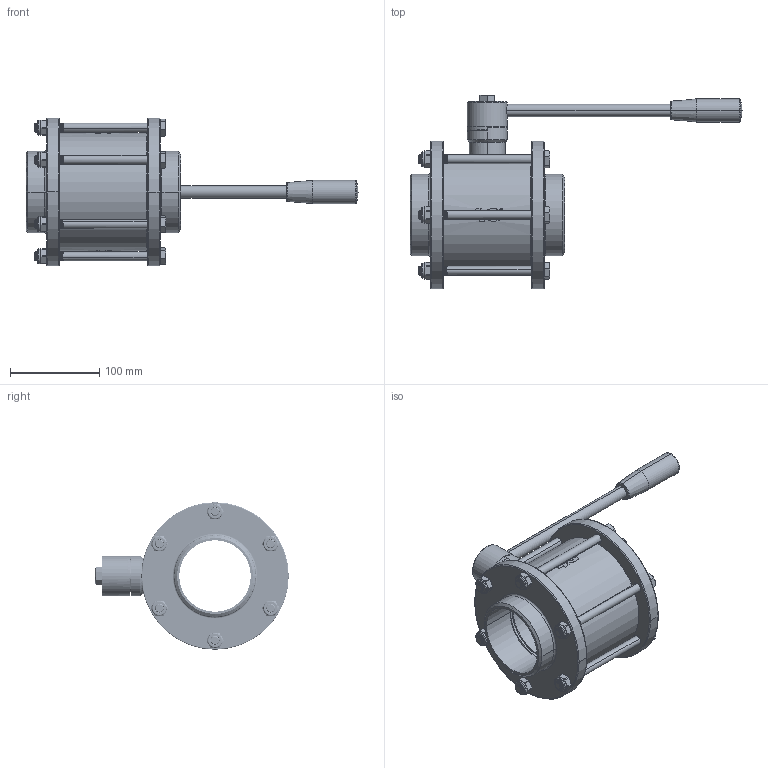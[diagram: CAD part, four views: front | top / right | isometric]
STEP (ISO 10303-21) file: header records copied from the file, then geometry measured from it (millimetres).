
FILE_DESCRIPTION((''),'2;1');
FILE_NAME('ASM0001_ASM','2024-12-13T10:57:10',('tecnico2'),('CDM Tecnoconsulting'),'CREO PARAMETRIC BY PTC INC, 2024063','CREO PARAMETRIC BY PTC INC, 2024063','');
FILE_SCHEMA(('CONFIG_CONTROL_DESIGN','SHAPE_APPEARANCE_LAYERS_GROUPS'));
Products named in the file (3): PARTE_VUOTA_1; VIA2TEPF10X140; ASM0001_ASM
Assembly tree (7 placements, depth 2):
  ASM0001_ASM
    PARTE_VUOTA_1
    VIA2TEPF10X140  x6
Bounding box: 371.5 x 216.5 x 165 mm (x, y, z)
Volume: 1427864.4 mm3; surface area: 346012.5 mm2
Topology: 8 solids, 11 shells, 1708 faces, 4646 edges, 2972 vertices
Faces by surface type: cylinder 590, plane 509, bspline 224, cone 217, extrusion 112, torus 50, sphere 6
Entity records: 90241 total; most frequent: CARTESIAN_POINT 47760, ORIENTED_EDGE 7248, DIRECTION 5610, EDGE_CURVE 3624, PRESENTATION_STYLE_ASSIGNMENT 3450, STYLED_ITEM 3426, CURVE_STYLE 3424, VERTEX_POINT 2327
